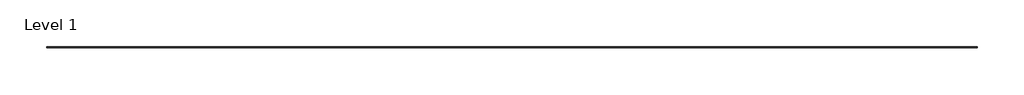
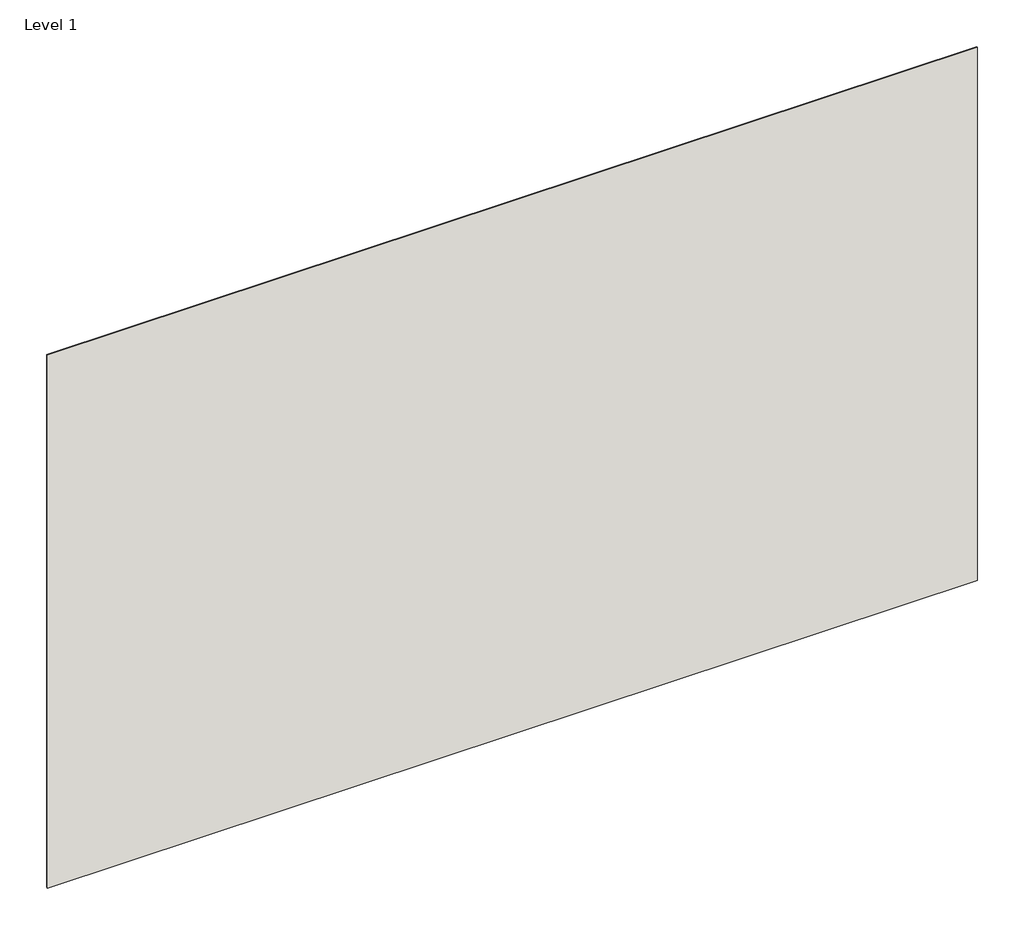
# One storey: 1 wall.
"""IFC4 building model written with IfcOpenShell, lengths in millimetres."""

from ifc_helpers import new_model, si_unit, origin, origin_with_axes, place, context, project, spatial, polyline, outline, extrude, element, save

model = new_model("IFC4")

# Units and contexts
model_context = context("Model", 3, world=origin())
ifc_project = project(units=[si_unit("LENGTHUNIT", "METRE", prefix="MILLI")], contexts=[model_context])

# Site, building, storey
site = spatial("IfcSite", under=ifc_project)
building = spatial("IfcBuilding", under=site)
storey = spatial("IfcBuildingStorey", under=building, Name="Level 1", Elevation=0.0)

# Wall
placement = place(None, origin())
element("IfcWall", 1, ObjectType="Struc10", at=placement, inside=storey, context=model_context, shape_type="SweptSolid", body=[
    extrude(outline(polyline([(8048.5288903, 1891.1857207), (1448.5288903, 1891.1857207), (1448.5288903, 1901.1857207), (8048.5288903, 1901.1857207), (8048.5288903, 1891.1857207)])), origin_with_axes(), (0.0, 0.0, 1.0), 4000.0),
])

save(model, "model.ifc")
